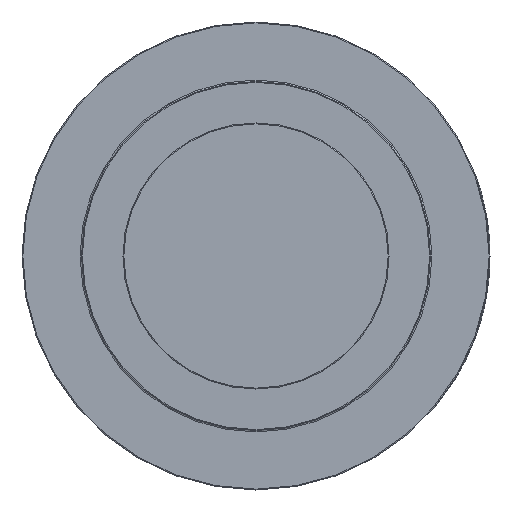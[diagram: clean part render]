
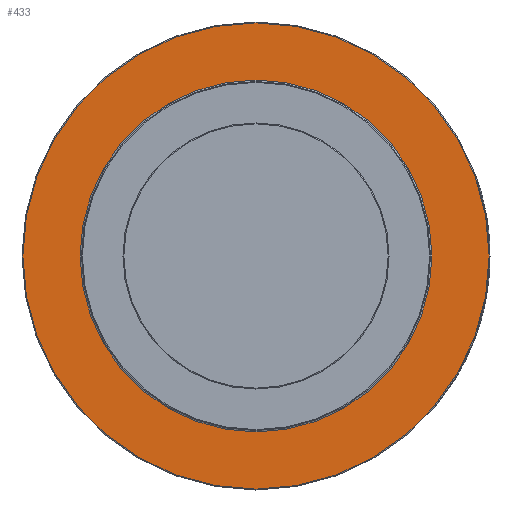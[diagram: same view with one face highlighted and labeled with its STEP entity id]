
A CAD part, left-side view. The second image highlights one B-rep face of the part: STEP entity #433.
In plain terms, the highlighted planar face has unit normal (-1, 0, 0).
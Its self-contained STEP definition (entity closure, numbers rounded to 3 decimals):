
#433 = ADVANCED_FACE( '', ( #989, #990 ), #991, .T. );
#989 = FACE_OUTER_BOUND( '', #2590, .T. );
#990 = FACE_BOUND( '', #2591, .T. );
#991 = PLANE( '', #2592 );
#2590 = EDGE_LOOP( '', ( #4685 ) );
#2591 = EDGE_LOOP( '', ( #4686 ) );
#2592 = AXIS2_PLACEMENT_3D( '', #4687, #4688, #4689 );
#4685 = ORIENTED_EDGE( '', *, *, #6133, .T. );
#4686 = ORIENTED_EDGE( '', *, *, #6134, .F. );
#4687 = CARTESIAN_POINT( '', ( 86.392, 0., 134.43 ) );
#4688 = DIRECTION( '', ( -1., 0., 0. ) );
#4689 = DIRECTION( '', ( 0., 0., 1. ) );
#6133 = EDGE_CURVE( '', #7153, #7153, #7154, .T. );
#6134 = EDGE_CURVE( '', #7155, #7155, #7156, .T. );
#7153 = VERTEX_POINT( '', #9582 );
#7154 = CIRCLE( '', #9583, 134.43 );
#7155 = VERTEX_POINT( '', #9584 );
#7156 = CIRCLE( '', #9585, 101.429 );
#9582 = CARTESIAN_POINT( '', ( 86.392, 0., 134.43 ) );
#9583 = AXIS2_PLACEMENT_3D( '', #10669, #10670, #10671 );
#9584 = CARTESIAN_POINT( '', ( 86.392, 0., 101.429 ) );
#9585 = AXIS2_PLACEMENT_3D( '', #10672, #10673, #10674 );
#10669 = CARTESIAN_POINT( '', ( 86.392, 0., 0. ) );
#10670 = DIRECTION( '', ( -1., 0., 0. ) );
#10671 = DIRECTION( '', ( 0., 0., 1. ) );
#10672 = CARTESIAN_POINT( '', ( 86.392, 0., 0. ) );
#10673 = DIRECTION( '', ( -1., 0., 0. ) );
#10674 = DIRECTION( '', ( 0., 0., 1. ) );
